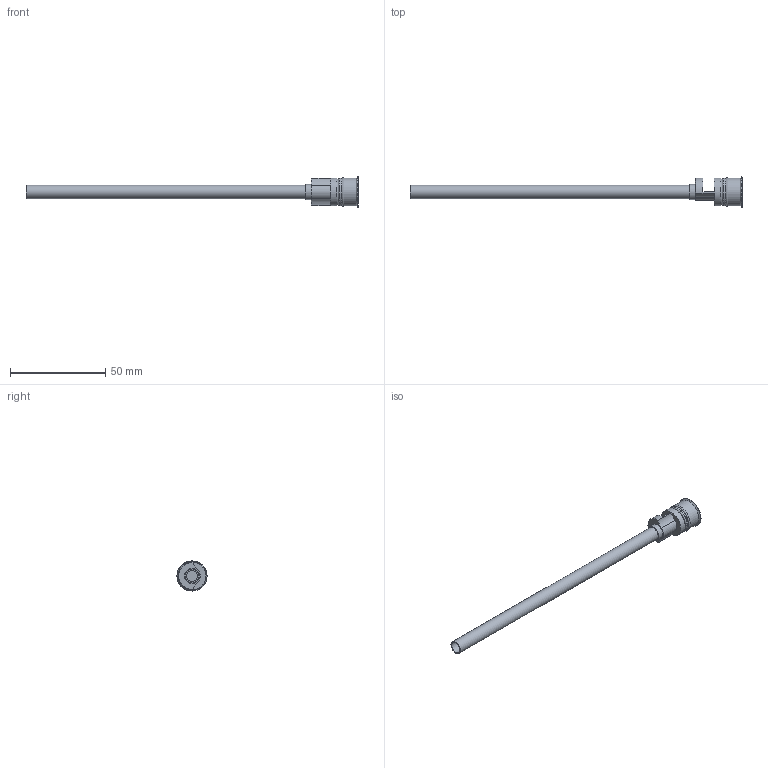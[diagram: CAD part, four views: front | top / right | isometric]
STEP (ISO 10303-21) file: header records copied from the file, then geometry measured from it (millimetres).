
FILE_DESCRIPTION( ( 'STEP AP214' ), '1' );
FILE_NAME( 'p:/temp/worker_226/temp/exporttempdir_6032_796_dzB7t/format_0/RF-14x150.stp', '2021-02-05T19:34:07', ( 'License CC BY-ND 4.0' ), ( 'CADENAS' ), ' ', 'PARTsolutions', ' ' );
FILE_SCHEMA( ( 'AUTOMOTIVE_DESIGN { 1 0 10303 214 1 1 1 1 }' ) );
Length unit declared in the file: millimetre
Products named in the file (1): _RF-14x150
Bounding box: 174.5 x 15.8 x 15.8 mm (x, y, z)
Volume: 4342.8 mm3; surface area: 8068.2 mm2
Topology: 1 solids, 1 shells, 46 faces, 111 edges, 71 vertices
Faces by surface type: plane 26, cylinder 13, cone 5, torus 2
Full cylindrical faces by diameter (mm): 6 x2, 7 x1, 8 x1, 14.5 x3, 15.8 x1
Entity records: 1649 total; most frequent: CARTESIAN_POINT 235, DIRECTION 217, ORIENTED_EDGE 188, EDGE_CURVE 94, AXIS2_PLACEMENT_3D 82, VERTEX_POINT 70, EDGE_LOOP 66, FACE_OUTER_BOUND 56
